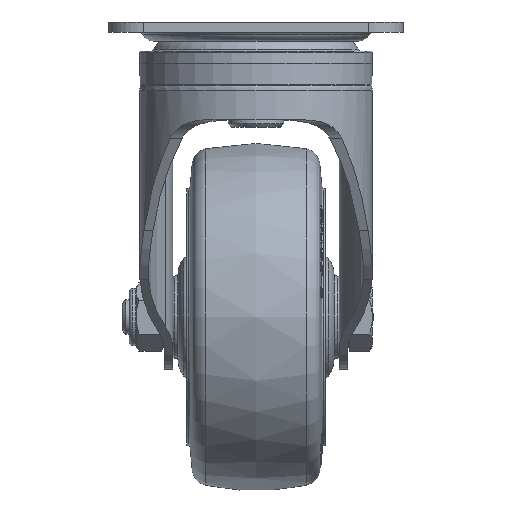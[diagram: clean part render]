
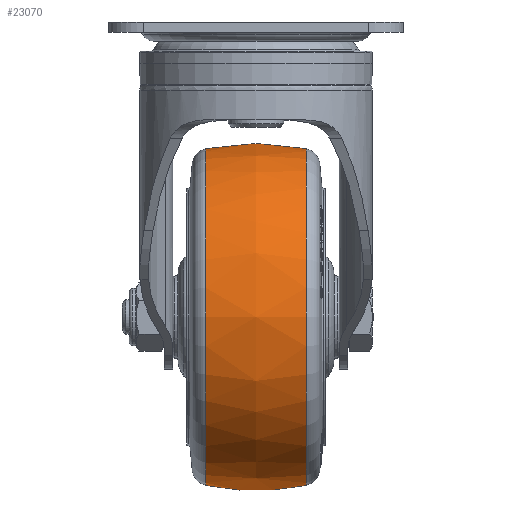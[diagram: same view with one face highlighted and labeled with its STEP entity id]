
A CAD part, left-side view. The second image highlights one B-rep face of the part: STEP entity #23070.
In plain terms, the highlighted free-form (B-spline) face has degree [2, 2] with [3, 9] control points.
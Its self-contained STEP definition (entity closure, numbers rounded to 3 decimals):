
#15=(
BOUNDED_SURFACE()
B_SPLINE_SURFACE(2,2,((#44225,#44226,#44227,#44228,#44229,#44230,#44231,
#44232,#44233),(#44234,#44235,#44236,#44237,#44238,#44239,#44240,#44241,
#44242),(#44243,#44244,#44245,#44246,#44247,#44248,#44249,#44250,#44251)),
 .UNSPECIFIED.,.F.,.T.,.F.)
B_SPLINE_SURFACE_WITH_KNOTS((3,3),(3,2,2,2,3),(-0.208,0.208),
(-3.142,-1.571,0.,1.571,3.142),
 .UNSPECIFIED.)
GEOMETRIC_REPRESENTATION_ITEM()
RATIONAL_B_SPLINE_SURFACE(((1.,0.707,1.,0.707,1.,
0.707,1.,0.707,1.),(0.978,0.692,
0.978,0.692,0.978,0.692,
0.978,0.692,0.978),(1.,0.707,
1.,0.707,1.,0.707,1.,0.707,1.)))
REPRESENTATION_ITEM('')
SURFACE()
);
#7336=FACE_OUTER_BOUND('',#8744,.T.);
#8744=EDGE_LOOP('',(#21660,#21661,#21662,#21663));
#9075=CIRCLE('',#24225,48.492);
#9094=CIRCLE('',#24253,48.492);
#9096=CIRCLE('',#24255,70.);
#11371=VERTEX_POINT('',#44175);
#11386=VERTEX_POINT('',#44222);
#14794=EDGE_CURVE('',#11371,#11371,#9075,.T.);
#14816=EDGE_CURVE('',#11386,#11386,#9094,.T.);
#14818=EDGE_CURVE('',#11371,#11386,#9096,.T.);
#21660=ORIENTED_EDGE('',*,*,#14794,.F.);
#21661=ORIENTED_EDGE('',*,*,#14818,.T.);
#21662=ORIENTED_EDGE('',*,*,#14816,.T.);
#21663=ORIENTED_EDGE('',*,*,#14818,.F.);
#23070=ADVANCED_FACE('',(#7336),#15,.F.);
#24225=AXIS2_PLACEMENT_3D('',#44177,#28142,#28143);
#24253=AXIS2_PLACEMENT_3D('',#44223,#28201,#28202);
#24255=AXIS2_PLACEMENT_3D('',#44252,#28205,#28206);
#28142=DIRECTION('center_axis',(0.,-1.,0.));
#28143=DIRECTION('ref_axis',(0.,0.,
1.));
#28201=DIRECTION('center_axis',(0.,-1.,0.));
#28202=DIRECTION('ref_axis',(0.,0.,
1.));
#28205=DIRECTION('center_axis',(1.,0.,0.));
#28206=DIRECTION('ref_axis',(0.,0.,
-1.));
#44175=CARTESIAN_POINT('',(36.,-14.451,-132.292));
#44177=CARTESIAN_POINT('Origin',(36.,-14.451,-83.8));
#44222=CARTESIAN_POINT('',(36.,14.451,-132.292));
#44223=CARTESIAN_POINT('Origin',(36.,14.451,-83.8));
#44225=CARTESIAN_POINT('Ctrl Pts',(36.,14.451,-132.292));
#44226=CARTESIAN_POINT('Ctrl Pts',(84.492,14.451,-132.292));
#44227=CARTESIAN_POINT('Ctrl Pts',(84.492,14.451,-83.8));
#44228=CARTESIAN_POINT('Ctrl Pts',(84.492,14.451,-35.308));
#44229=CARTESIAN_POINT('Ctrl Pts',(36.,14.451,-35.308));
#44230=CARTESIAN_POINT('Ctrl Pts',(-12.492,14.451,-35.308));
#44231=CARTESIAN_POINT('Ctrl Pts',(-12.492,14.451,-83.8));
#44232=CARTESIAN_POINT('Ctrl Pts',(-12.492,14.451,-132.292));
#44233=CARTESIAN_POINT('Ctrl Pts',(36.,14.451,-132.292));
#44234=CARTESIAN_POINT('Ctrl Pts',(36.,0.,
-135.341));
#44235=CARTESIAN_POINT('Ctrl Pts',(87.541,0.,
-135.341));
#44236=CARTESIAN_POINT('Ctrl Pts',(87.541,0.,
-83.8));
#44237=CARTESIAN_POINT('Ctrl Pts',(87.541,0.,
-32.259));
#44238=CARTESIAN_POINT('Ctrl Pts',(36.,0.,
-32.259));
#44239=CARTESIAN_POINT('Ctrl Pts',(-15.541,0.,
-32.259));
#44240=CARTESIAN_POINT('Ctrl Pts',(-15.541,0.,
-83.8));
#44241=CARTESIAN_POINT('Ctrl Pts',(-15.541,0.,
-135.341));
#44242=CARTESIAN_POINT('Ctrl Pts',(36.,0.,
-135.341));
#44243=CARTESIAN_POINT('Ctrl Pts',(36.,-14.451,-132.292));
#44244=CARTESIAN_POINT('Ctrl Pts',(84.492,-14.451,-132.292));
#44245=CARTESIAN_POINT('Ctrl Pts',(84.492,-14.451,-83.8));
#44246=CARTESIAN_POINT('Ctrl Pts',(84.492,-14.451,-35.308));
#44247=CARTESIAN_POINT('Ctrl Pts',(36.,-14.451,-35.308));
#44248=CARTESIAN_POINT('Ctrl Pts',(-12.492,-14.451,
-35.308));
#44249=CARTESIAN_POINT('Ctrl Pts',(-12.492,-14.451,
-83.8));
#44250=CARTESIAN_POINT('Ctrl Pts',(-12.492,-14.451,
-132.292));
#44251=CARTESIAN_POINT('Ctrl Pts',(36.,-14.451,-132.292));
#44252=CARTESIAN_POINT('Origin',(36.,0.,
-63.8));
